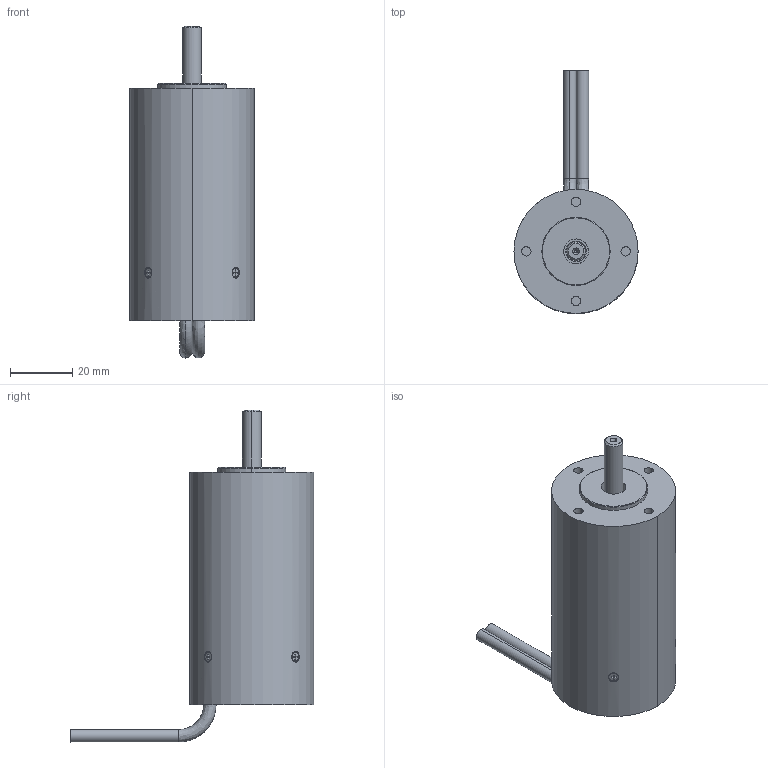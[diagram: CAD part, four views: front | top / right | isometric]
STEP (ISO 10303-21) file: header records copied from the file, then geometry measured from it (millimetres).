
FILE_DESCRIPTION (( 'STEP AP203' ), '1' );
FILE_NAME ('11.STEP', '2018-07-16T08:33:04', ( 'xt256.com' ), ( 'xt256.com' ), 'SwSTEP 2.0', 'SolidWorks 2016', '' );
FILE_SCHEMA (( 'CONFIG_CONTROL_DESIGN' ));
Length unit declared in the file: millimetre
Products named in the file (2): 11-prt0; 11
Assembly tree (1 placements, depth 2):
  11
    11-prt0
Bounding box: 40 x 78.54 x 107 mm (x, y, z)
Surface area: 15076 mm2 (no closed solid volume)
Topology: 0 solids, 7 shells, 245 faces, 607 edges, 377 vertices
Faces by surface type: plane 119, cylinder 65, bspline 49, cone 9, torus 3
Full cylindrical faces by diameter (mm): 1.221 x2
Entity records: 8890 total; most frequent: CARTESIAN_POINT 3279, ORIENTED_EDGE 1172, DIRECTION 1054, EDGE_CURVE 589, VERTEX_POINT 377, AXIS2_PLACEMENT_3D 364, VECTOR 326, LINE 326
